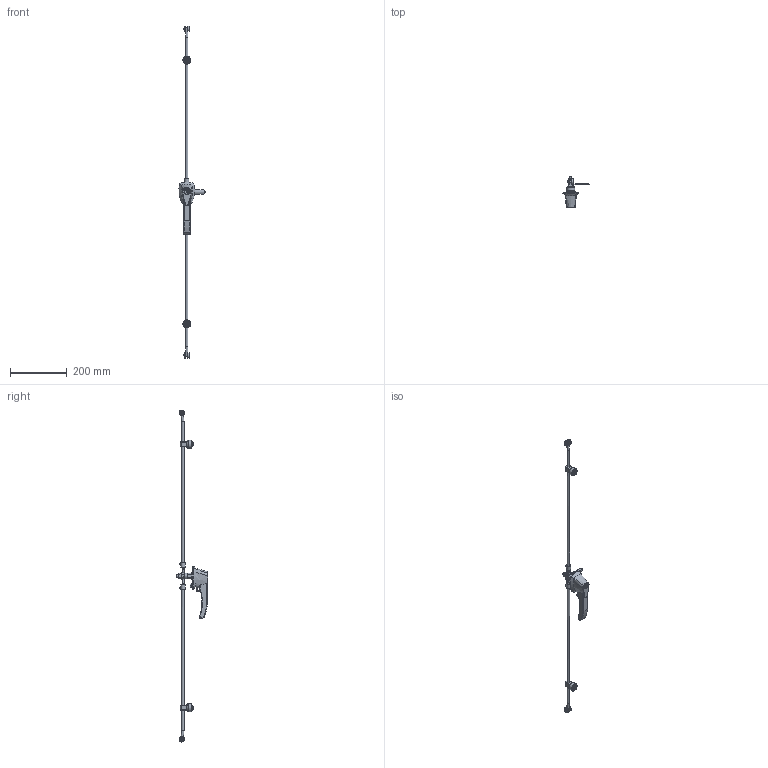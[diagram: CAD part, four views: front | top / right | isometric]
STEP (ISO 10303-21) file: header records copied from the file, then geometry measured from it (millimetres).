
FILE_DESCRIPTION( ( 'Unknown' ), '1' );
FILE_NAME( 'S:/STOCK/9-ACCESSORIES/LOCKS_HANDLES/MHKL2.stp', 'Unknown', ( 'Unknown' ), ( 'Unknown' ), 'PSStep 17.0.49', 'Unknown', ' ' );
FILE_SCHEMA( ( 'AUTOMOTIVE_DESIGN { 1 0 10303 214 1 1 1 1 }' ) );
Length unit declared in the file: millimetre
Products named in the file (21): HAN13066; HAN13066_SCREW; HAN13066_NUT; Assem1; LOC13040nut; hanwasher; hanwasher-oa0; LOC13397; LOC13232; LOC13232-oa1; COM54258; LOC13233; ROL18052; COM51490; RVT19006; WAF24955; SPC86071; HAN13046NUT; WAM86622; SCS86889
Assembly tree (31 placements, depth 3):
  Assem1
    LOC13040nut
    hanwasher
    hanwasher-oa0
    LOC13397
    LOC13232
    LOC13232-oa1
    COM54258
    LOC13233  x2
    ROL18052  x4
    COM51490  x2
    RVT19006  x2
    WAF24955  x4
    SPC86071
    HAN13046NUT
    WAM86622  x2
    SCS86889  x2
    HAN13066
      HAN13066
      HAN13066_SCREW
      HAN13066_NUT
Bounding box: 91.38 x 111.71 x 1166.14 mm (x, y, z)
Volume: 274789.1 mm3; surface area: 90110.9 mm2
Topology: 30 solids, 30 shells, 454 faces, 1054 edges, 667 vertices
Faces by surface type: plane 240, cylinder 139, bspline 44, torus 14, sphere 12, cone 5
Full cylindrical faces by diameter (mm): 3.239 x2, 4.763 x8, 4.801 x2, 5.537 x4, 5.69 x2, 5.893 x1, 5.918 x1, 6 x4, 6.35 x2, 6.985 x2, 7.938 x4, 8.128 x1, 8.255 x3, 8.509 x2, 8.89 x2, 9.525 x3, 10 x2, 11.125 x1, 12.7 x4, 13.335 x1, 14.884 x2, 15.24 x1, 15.672 x2, 15.875 x2, 16.891 x2, 17.78 x1, 19.05 x5, 19.169 x1, 21 x2, 28 x2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
Entity records: 20854 total; most frequent: CARTESIAN_POINT 10686, ORIENTED_EDGE 1636, DIRECTION 1615, EDGE_CURVE 818, AXIS2_PLACEMENT_3D 608, VERTEX_POINT 554, EDGE_LOOP 487, FACE_OUTER_BOUND 429
